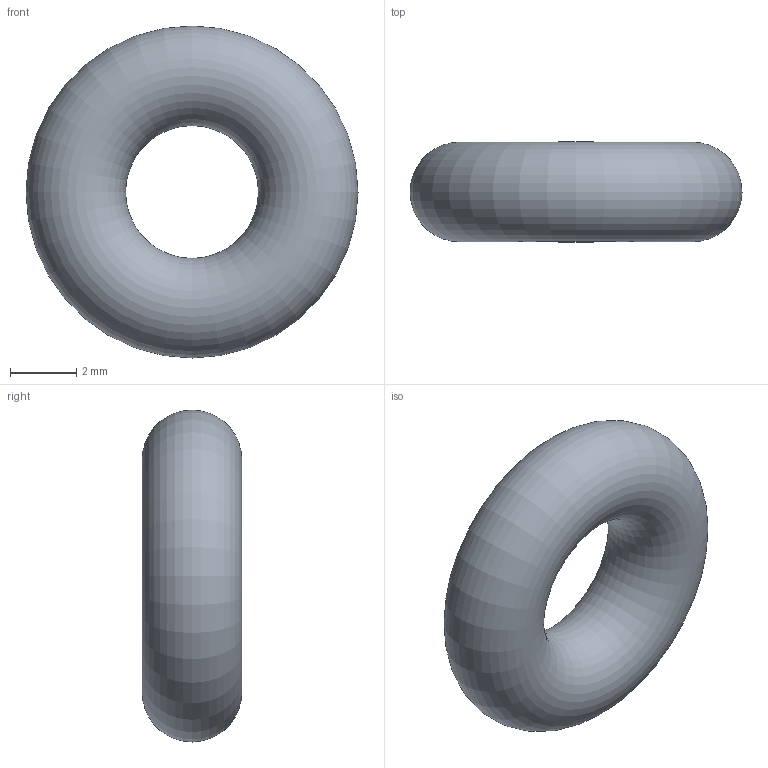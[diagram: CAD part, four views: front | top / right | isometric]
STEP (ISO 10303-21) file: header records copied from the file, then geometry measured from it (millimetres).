
FILE_DESCRIPTION( ( 'STEP AP203' ), '1' );
FILE_NAME( 'C:/Temp/Ganter_Step_05_03_2020/data/3_5/or638/O-Ring OR638-4.00-3.00-70.stp', '2020-03-12T13:44:28', ( 'License CC BY-ND 4.0' ), ( 'CADENAS' ), ' ', 'PARTsolutions', ' ' );
FILE_SCHEMA( ( 'CONFIG_CONTROL_DESIGN' ) );
Length unit declared in the file: millimetre
Products named in the file (1): _O-Ring OR638-4.00-3.00-70
Bounding box: 10 x 3 x 10 mm (x, y, z)
Volume: 155.4 mm3; surface area: 207.3 mm2
Topology: 1 solids, 1 shells, 1 faces, 2 edges, 1 vertices
Faces by surface type: torus 1
Entity records: 62 total; most frequent: CC_DESIGN_PERSON_AND_ORGANIZATION_ASSIGNMENT 5, PERSON_AND_ORGANIZATION_ROLE 4, DIRECTION 4, CARTESIAN_POINT 3, DATE_TIME_ROLE 2, CC_DESIGN_DATE_AND_TIME_ASSIGNMENT 2, AXIS2_PLACEMENT_3D 2, DIMENSIONAL_EXPONENTS 2
